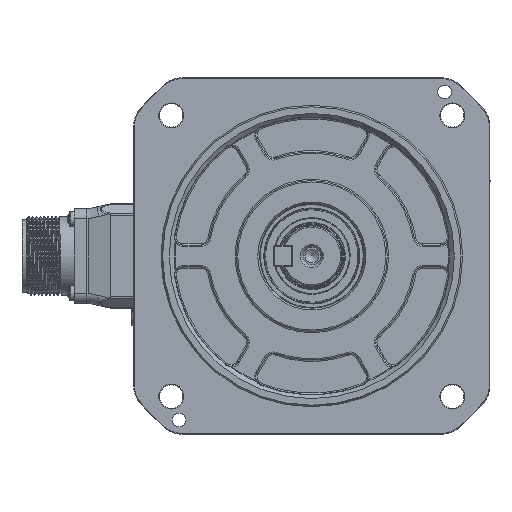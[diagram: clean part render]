
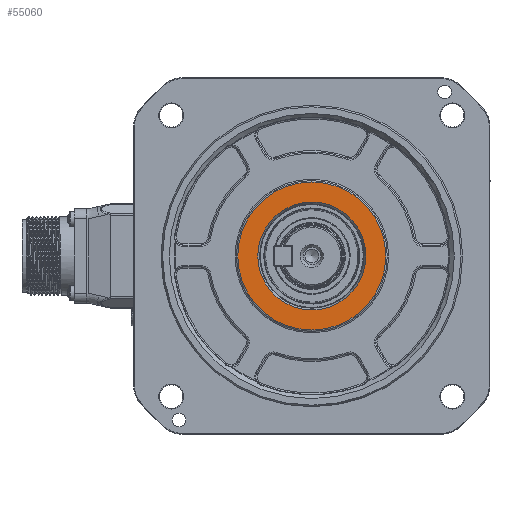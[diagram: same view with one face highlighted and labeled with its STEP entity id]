
A CAD part, left-side view. The second image highlights one B-rep face of the part: STEP entity #55060.
In plain terms, the highlighted planar face has unit normal (-1, 0, 0).
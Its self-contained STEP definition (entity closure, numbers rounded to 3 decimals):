
#4660 = AXIS2_PLACEMENT_3D ( 'NONE', #57639, #56446, #12789 ) ;
#7366 = ORIENTED_EDGE ( 'NONE', *, *, #35044, .F. ) ;
#12789 = DIRECTION ( 'NONE',  ( 0., 0., -1. ) ) ;
#13151 = CIRCLE ( 'NONE', #28659, 19.693 ) ;
#17664 = EDGE_LOOP ( 'NONE', ( #7366 ) ) ;
#19921 = VERTEX_POINT ( 'NONE', #85356 ) ;
#26736 = EDGE_CURVE ( 'NONE', #19921, #19921, #55055, .T. ) ;
#28659 = AXIS2_PLACEMENT_3D ( 'NONE', #34510, #78781, #59386 ) ;
#34510 = CARTESIAN_POINT ( 'NONE',  ( 0.8, 0., 0. ) ) ;
#35044 = EDGE_CURVE ( 'NONE', #78034, #78034, #13151, .T. ) ;
#36037 = CARTESIAN_POINT ( 'NONE',  ( 0.8, 27.5, 0. ) ) ;
#45139 = FACE_OUTER_BOUND ( 'NONE', #46762, .T. ) ;
#46762 = EDGE_LOOP ( 'NONE', ( #112725 ) ) ;
#55055 = CIRCLE ( 'NONE', #4660, 27. ) ;
#55060 = ADVANCED_FACE ( 'NONE', ( #84504, #45139 ), #101493, .F. ) ;
#56446 = DIRECTION ( 'NONE',  ( -1., 0., 0. ) ) ;
#57639 = CARTESIAN_POINT ( 'NONE',  ( 0.8, 0., 0. ) ) ;
#59386 = DIRECTION ( 'NONE',  ( 0., 0., -1. ) ) ;
#72986 = DIRECTION ( 'NONE',  ( 1., 0., 0. ) ) ;
#78034 = VERTEX_POINT ( 'NONE', #115058 ) ;
#78781 = DIRECTION ( 'NONE',  ( -1., 0., 0. ) ) ;
#84504 = FACE_BOUND ( 'NONE', #17664, .T. ) ;
#85356 = CARTESIAN_POINT ( 'NONE',  ( 0.8, 0., -27. ) ) ;
#93858 = AXIS2_PLACEMENT_3D ( 'NONE', #36037, #72986, #110010 ) ;
#101493 = PLANE ( 'NONE',  #93858 ) ;
#110010 = DIRECTION ( 'NONE',  ( 0., 0., -1. ) ) ;
#112725 = ORIENTED_EDGE ( 'NONE', *, *, #26736, .T. ) ;
#115058 = CARTESIAN_POINT ( 'NONE',  ( 0.8, 0., -19.693 ) ) ;
